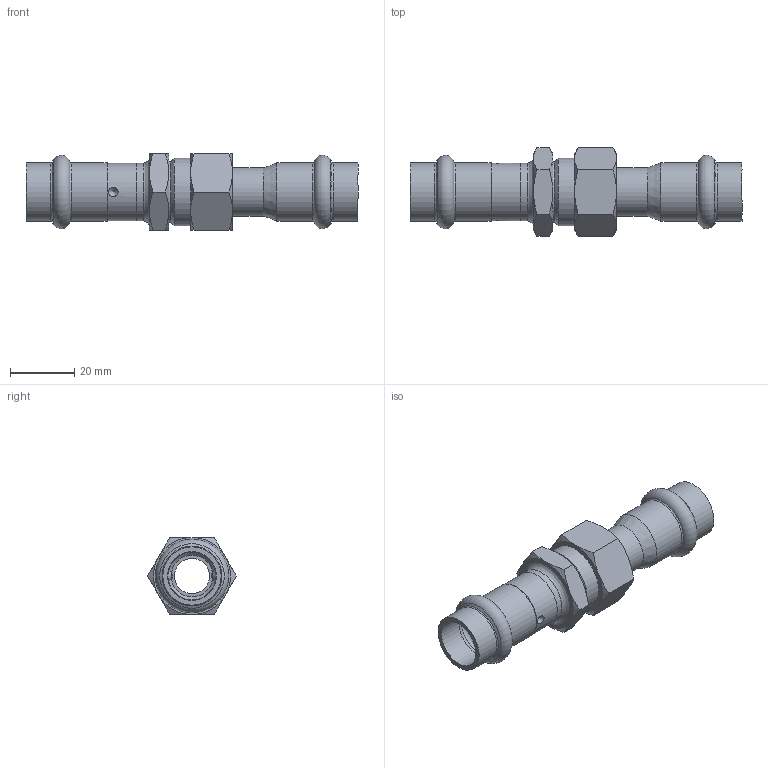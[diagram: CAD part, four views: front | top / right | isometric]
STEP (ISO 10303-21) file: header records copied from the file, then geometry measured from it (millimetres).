
FILE_DESCRIPTION((''),'2;1');
FILE_NAME('G:\Nirosan-Schmiedefeld\Technics\CAD\Bauteile VA\015\6933015(1).stp','2010-08-17T09:57:41',('herberg'),(''),'Autodesk Inventor 2009','Autodesk Inventor 2009','');
FILE_SCHEMA(('AUTOMOTIVE_DESIGN { 1 0 10303 214 1 1 1 1 }'));
Length unit declared in the file: millimetre
Products named in the file (10): 6933015(1); 69359AG1512(0); 692431815HM(0); 359AG1512(3); 69359m1512(2); HM_6924315(0); B1512(0); SM1512(1); FD_1811_EPDM(0); DIN.7993.A 16(0)
Assembly tree (9 placements, depth 3):
  6933015(1)
    69359AG1512(0)
      692431815HM(0)
      359AG1512(3)
    69359m1512(2)
      HM_6924315(0)
      B1512(0)
      SM1512(1)
      FD_1811_EPDM(0)
      DIN.7993.A 16(0)
Bounding box: 103.5 x 27.71 x 24 mm (x, y, z)
Volume: 14949 mm3; surface area: 15445 mm2
Topology: 7 solids, 7 shells, 117 faces, 238 edges, 140 vertices
Faces by surface type: cone 41, plane 31, cylinder 23, bspline 13, torus 7, sphere 2
Full cylindrical faces by diameter (mm): 11 x2, 12 x2, 13 x1, 15 x4, 15.15 x4, 17.2 x2, 18 x3, 18.15 x4, 20.955 x1
Entity records: 3617 total; most frequent: CARTESIAN_POINT 1314, DIRECTION 456, ORIENTED_EDGE 334, AXIS2_PLACEMENT_3D 222, EDGE_LOOP 194, EDGE_CURVE 167, VERTEX_POINT 129, FACE_OUTER_BOUND 117
